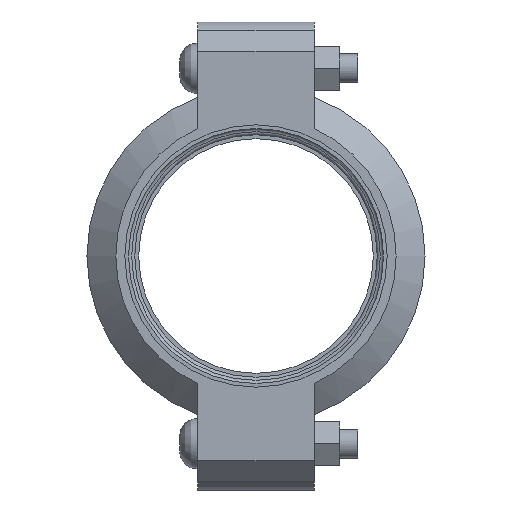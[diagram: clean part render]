
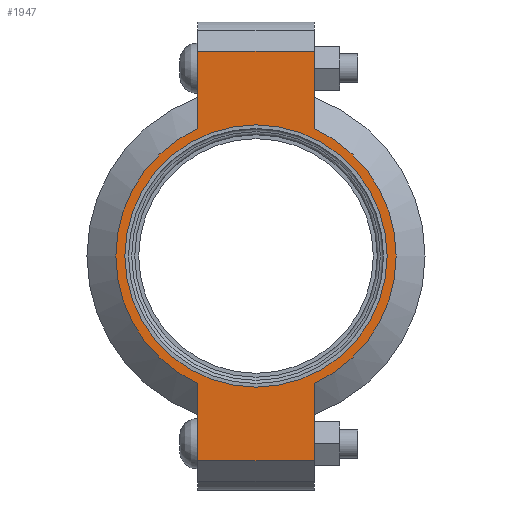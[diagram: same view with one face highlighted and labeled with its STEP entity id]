
A CAD part, left-side view. The second image highlights one B-rep face of the part: STEP entity #1947.
In plain terms, the highlighted planar face has unit normal (-1, 0, 0) as drawn and (0, 0, 1) by its records, which use the part's own axes.
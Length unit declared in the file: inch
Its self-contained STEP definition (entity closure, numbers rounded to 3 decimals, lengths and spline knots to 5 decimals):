
#136=LINE('',#3451,#233);
#144=LINE('',#3487,#241);
#151=LINE('',#3508,#248);
#160=LINE('',#3540,#257);
#161=LINE('',#3544,#258);
#162=LINE('',#3546,#259);
#233=VECTOR('',#2815,0.3937);
#241=VECTOR('',#2831,0.3937);
#248=VECTOR('',#2850,0.3937);
#257=VECTOR('',#2875,0.3937);
#258=VECTOR('',#2880,0.3937);
#259=VECTOR('',#2881,0.3937);
#315=FACE_BOUND('',#565,.T.);
#359=PLANE('',#2286);
#447=FACE_OUTER_BOUND('',#564,.T.);
#564=EDGE_LOOP('',(#1668,#1669,#1670,#1671,#1672,#1673,#1674,#1675));
#565=EDGE_LOOP('',(#1676));
#737=CIRCLE('',#2287,2.405);
#738=CIRCLE('',#2288,2.405);
#739=CIRCLE('',#2289,2.25);
#901=VERTEX_POINT('',#3448);
#902=VERTEX_POINT('',#3450);
#913=VERTEX_POINT('',#3482);
#914=VERTEX_POINT('',#3486);
#921=VERTEX_POINT('',#3505);
#922=VERTEX_POINT('',#3507);
#932=VERTEX_POINT('',#3543);
#933=VERTEX_POINT('',#3545);
#934=VERTEX_POINT('',#3548);
#1146=EDGE_CURVE('',#902,#901,#136,.T.);
#1160=EDGE_CURVE('',#914,#913,#144,.T.);
#1170=EDGE_CURVE('',#922,#921,#151,.T.);
#1185=EDGE_CURVE('',#914,#901,#160,.T.);
#1186=EDGE_CURVE('',#913,#922,#737,.T.);
#1187=EDGE_CURVE('',#932,#921,#161,.T.);
#1188=EDGE_CURVE('',#932,#933,#162,.T.);
#1189=EDGE_CURVE('',#933,#902,#738,.T.);
#1190=EDGE_CURVE('',#934,#934,#739,.T.);
#1668=ORIENTED_EDGE('',*,*,#1185,.F.);
#1669=ORIENTED_EDGE('',*,*,#1160,.T.);
#1670=ORIENTED_EDGE('',*,*,#1186,.T.);
#1671=ORIENTED_EDGE('',*,*,#1170,.T.);
#1672=ORIENTED_EDGE('',*,*,#1187,.F.);
#1673=ORIENTED_EDGE('',*,*,#1188,.T.);
#1674=ORIENTED_EDGE('',*,*,#1189,.T.);
#1675=ORIENTED_EDGE('',*,*,#1146,.T.);
#1676=ORIENTED_EDGE('',*,*,#1190,.T.);
#1947=ADVANCED_FACE('',(#447,#315),#359,.T.);
#2286=AXIS2_PLACEMENT_3D('',#3541,#2876,#2877);
#2287=AXIS2_PLACEMENT_3D('',#3542,#2878,#2879);
#2288=AXIS2_PLACEMENT_3D('',#3547,#2882,#2883);
#2289=AXIS2_PLACEMENT_3D('',#3549,#2884,#2885);
#2815=DIRECTION('',(1.,0.,0.));
#2831=DIRECTION('',(-1.,0.,0.));
#2850=DIRECTION('',(-1.,0.,0.));
#2875=DIRECTION('',(0.,-1.,0.));
#2876=DIRECTION('center_axis',(0.,0.,1.));
#2877=DIRECTION('ref_axis',(-1.,0.,0.));
#2878=DIRECTION('center_axis',(0.,0.,1.));
#2879=DIRECTION('ref_axis',(1.,0.,0.));
#2880=DIRECTION('',(0.,1.,0.));
#2881=DIRECTION('',(1.,0.,0.));
#2882=DIRECTION('center_axis',(0.,0.,1.));
#2883=DIRECTION('ref_axis',(1.,0.,0.));
#2884=DIRECTION('center_axis',(0.,0.,-1.));
#2885=DIRECTION('ref_axis',(1.,0.,0.));
#3448=CARTESIAN_POINT('',(3.515,-1.,1.065));
#3450=CARTESIAN_POINT('',(2.18724,-1.,1.065));
#3451=CARTESIAN_POINT('',(4.015,-1.,1.065));
#3482=CARTESIAN_POINT('',(2.18724,1.,1.065));
#3486=CARTESIAN_POINT('',(3.515,1.,1.065));
#3487=CARTESIAN_POINT('',(-4.015,1.,1.065));
#3505=CARTESIAN_POINT('',(-3.515,1.,1.065));
#3507=CARTESIAN_POINT('',(-2.18724,1.,1.065));
#3508=CARTESIAN_POINT('',(-4.015,1.,1.065));
#3540=CARTESIAN_POINT('',(3.515,-0.5,1.065));
#3541=CARTESIAN_POINT('Origin',(0.,0.,
1.065));
#3542=CARTESIAN_POINT('Origin',(0.,0.,1.065));
#3543=CARTESIAN_POINT('',(-3.515,-1.,1.065));
#3544=CARTESIAN_POINT('',(-3.515,0.5,1.065));
#3545=CARTESIAN_POINT('',(-2.18724,-1.,1.065));
#3546=CARTESIAN_POINT('',(4.015,-1.,1.065));
#3547=CARTESIAN_POINT('Origin',(0.,0.,1.065));
#3548=CARTESIAN_POINT('',(-2.25,0.,1.065));
#3549=CARTESIAN_POINT('Origin',(0.,0.,1.065));
